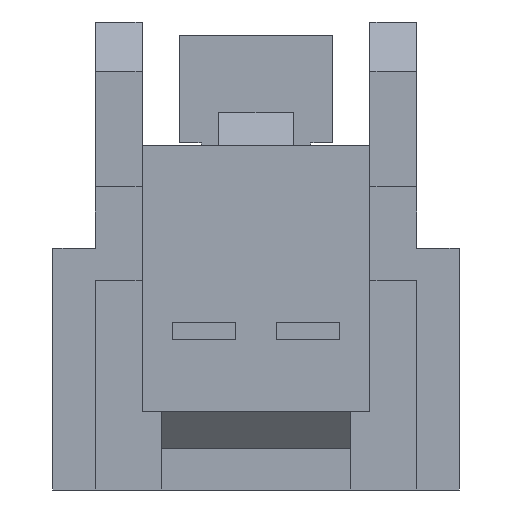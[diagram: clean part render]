
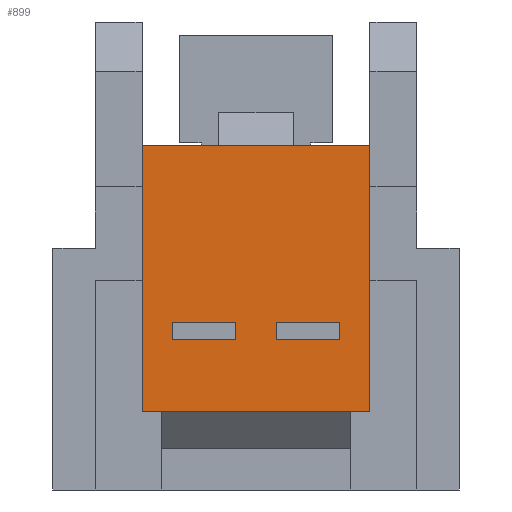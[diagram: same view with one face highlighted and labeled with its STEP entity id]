
A CAD part, front view. The second image highlights one B-rep face of the part: STEP entity #899.
In plain terms, the highlighted planar face has unit normal (0, -1, 0).
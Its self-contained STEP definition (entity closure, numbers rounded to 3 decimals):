
#804=AXIS2_PLACEMENT_3D('Plane Axis2P3D',#801,#802,#803) ;
#285=CARTESIAN_POINT('Line Origine',(0.,0.,-2.95)) ;
#289=CARTESIAN_POINT('Vertex',(-4.15,0.,-2.95)) ;
#291=CARTESIAN_POINT('Vertex',(4.15,0.,-2.95)) ;
#801=CARTESIAN_POINT('Axis2P3D Location',(-4.316,0.,-3.144)) ;
#806=CARTESIAN_POINT('Line Origine',(4.15,0.,1.9)) ;
#810=CARTESIAN_POINT('Vertex',(4.15,0.,6.75)) ;
#813=CARTESIAN_POINT('Line Origine',(0.,0.,6.75)) ;
#817=CARTESIAN_POINT('Vertex',(-4.15,0.,6.75)) ;
#820=CARTESIAN_POINT('Line Origine',(-4.15,0.,1.9)) ;
#831=CARTESIAN_POINT('Line Origine',(-1.9,0.,0.32)) ;
#835=CARTESIAN_POINT('Vertex',(-0.75,0.,0.32)) ;
#837=CARTESIAN_POINT('Vertex',(-3.05,0.,0.32)) ;
#840=CARTESIAN_POINT('Line Origine',(-0.75,0.,0.)) ;
#844=CARTESIAN_POINT('Vertex',(-0.75,0.,-0.32)) ;
#847=CARTESIAN_POINT('Line Origine',(-1.9,0.,-0.32)) ;
#851=CARTESIAN_POINT('Vertex',(-3.05,0.,-0.32)) ;
#854=CARTESIAN_POINT('Line Origine',(-3.05,0.,0.)) ;
#865=CARTESIAN_POINT('Line Origine',(0.75,0.,0.)) ;
#869=CARTESIAN_POINT('Vertex',(0.75,0.,-0.32)) ;
#871=CARTESIAN_POINT('Vertex',(0.75,0.,0.32)) ;
#874=CARTESIAN_POINT('Line Origine',(1.9,0.,0.32)) ;
#878=CARTESIAN_POINT('Vertex',(3.05,0.,0.32)) ;
#881=CARTESIAN_POINT('Line Origine',(3.05,0.,0.)) ;
#885=CARTESIAN_POINT('Vertex',(3.05,0.,-0.32)) ;
#888=CARTESIAN_POINT('Line Origine',(1.9,0.,-0.32)) ;
#286=DIRECTION('Vector Direction',(1.,0.,0.)) ;
#802=DIRECTION('Axis2P3D Direction',(0.,-1.,0.)) ;
#803=DIRECTION('Axis2P3D XDirection',(1.,0.,0.)) ;
#807=DIRECTION('Vector Direction',(0.,0.,1.)) ;
#814=DIRECTION('Vector Direction',(-1.,0.,0.)) ;
#821=DIRECTION('Vector Direction',(0.,0.,-1.)) ;
#832=DIRECTION('Vector Direction',(1.,0.,0.)) ;
#841=DIRECTION('Vector Direction',(0.,0.,1.)) ;
#848=DIRECTION('Vector Direction',(-1.,0.,0.)) ;
#855=DIRECTION('Vector Direction',(0.,0.,-1.)) ;
#866=DIRECTION('Vector Direction',(0.,0.,1.)) ;
#875=DIRECTION('Vector Direction',(1.,0.,0.)) ;
#882=DIRECTION('Vector Direction',(0.,0.,-1.)) ;
#889=DIRECTION('Vector Direction',(-1.,0.,0.)) ;
#287=VECTOR('Line Direction',#286,1.) ;
#808=VECTOR('Line Direction',#807,1.) ;
#815=VECTOR('Line Direction',#814,1.) ;
#822=VECTOR('Line Direction',#821,1.) ;
#833=VECTOR('Line Direction',#832,1.) ;
#842=VECTOR('Line Direction',#841,1.) ;
#849=VECTOR('Line Direction',#848,1.) ;
#856=VECTOR('Line Direction',#855,1.) ;
#867=VECTOR('Line Direction',#866,1.) ;
#876=VECTOR('Line Direction',#875,1.) ;
#883=VECTOR('Line Direction',#882,1.) ;
#890=VECTOR('Line Direction',#889,1.) ;
#826=ORIENTED_EDGE('',*,*,#812,.T.) ;
#827=ORIENTED_EDGE('',*,*,#819,.T.) ;
#828=ORIENTED_EDGE('',*,*,#824,.T.) ;
#829=ORIENTED_EDGE('',*,*,#293,.T.) ;
#860=ORIENTED_EDGE('',*,*,#839,.F.) ;
#861=ORIENTED_EDGE('',*,*,#846,.F.) ;
#862=ORIENTED_EDGE('',*,*,#853,.F.) ;
#863=ORIENTED_EDGE('',*,*,#858,.F.) ;
#894=ORIENTED_EDGE('',*,*,#873,.T.) ;
#895=ORIENTED_EDGE('',*,*,#880,.T.) ;
#896=ORIENTED_EDGE('',*,*,#887,.T.) ;
#897=ORIENTED_EDGE('',*,*,#892,.T.) ;
#864=FACE_BOUND('',#859,.T.) ;
#898=FACE_BOUND('',#893,.T.) ;
#899=ADVANCED_FACE('R3',(#830,#864,#898),#805,.T.) ;
#293=EDGE_CURVE('',#290,#292,#288,.T.) ;
#812=EDGE_CURVE('',#292,#811,#809,.T.) ;
#819=EDGE_CURVE('',#811,#818,#816,.T.) ;
#824=EDGE_CURVE('',#818,#290,#823,.T.) ;
#839=EDGE_CURVE('',#836,#838,#834,.F.) ;
#846=EDGE_CURVE('',#845,#836,#843,.T.) ;
#853=EDGE_CURVE('',#852,#845,#850,.F.) ;
#858=EDGE_CURVE('',#838,#852,#857,.T.) ;
#873=EDGE_CURVE('',#870,#872,#868,.T.) ;
#880=EDGE_CURVE('',#872,#879,#877,.T.) ;
#887=EDGE_CURVE('',#879,#886,#884,.T.) ;
#892=EDGE_CURVE('',#886,#870,#891,.T.) ;
#825=EDGE_LOOP('',(#826,#827,#828,#829)) ;
#859=EDGE_LOOP('',(#860,#861,#862,#863)) ;
#893=EDGE_LOOP('',(#894,#895,#896,#897)) ;
#830=FACE_OUTER_BOUND('',#825,.T.) ;
#288=LINE('Line',#285,#287) ;
#809=LINE('Line',#806,#808) ;
#816=LINE('Line',#813,#815) ;
#823=LINE('Line',#820,#822) ;
#834=LINE('Line',#831,#833) ;
#843=LINE('Line',#840,#842) ;
#850=LINE('Line',#847,#849) ;
#857=LINE('Line',#854,#856) ;
#868=LINE('Line',#865,#867) ;
#877=LINE('Line',#874,#876) ;
#884=LINE('Line',#881,#883) ;
#891=LINE('Line',#888,#890) ;
#805=PLANE('',#804) ;
#290=VERTEX_POINT('',#289) ;
#292=VERTEX_POINT('',#291) ;
#811=VERTEX_POINT('',#810) ;
#818=VERTEX_POINT('',#817) ;
#836=VERTEX_POINT('',#835) ;
#838=VERTEX_POINT('',#837) ;
#845=VERTEX_POINT('',#844) ;
#852=VERTEX_POINT('',#851) ;
#870=VERTEX_POINT('',#869) ;
#872=VERTEX_POINT('',#871) ;
#879=VERTEX_POINT('',#878) ;
#886=VERTEX_POINT('',#885) ;
